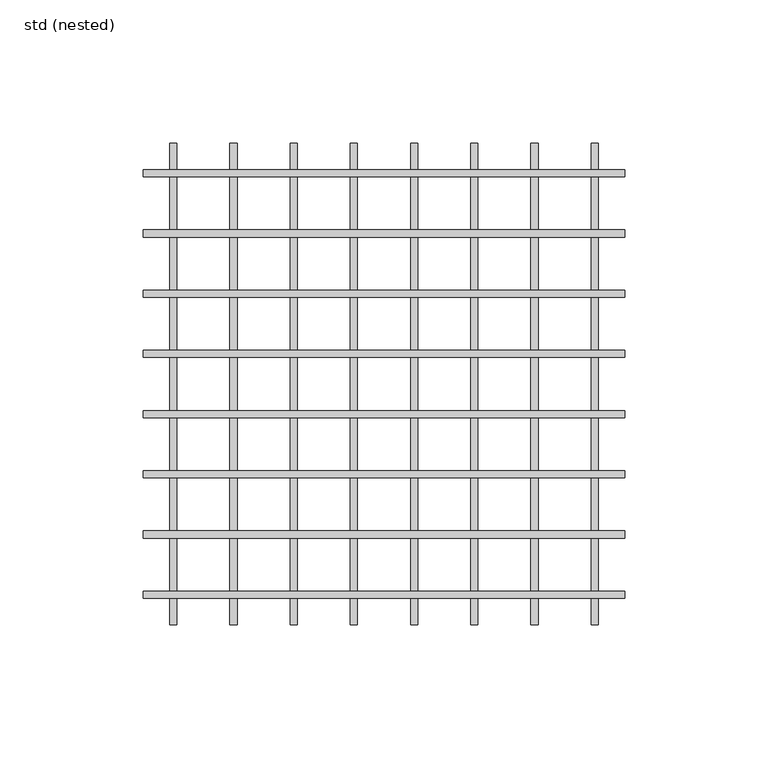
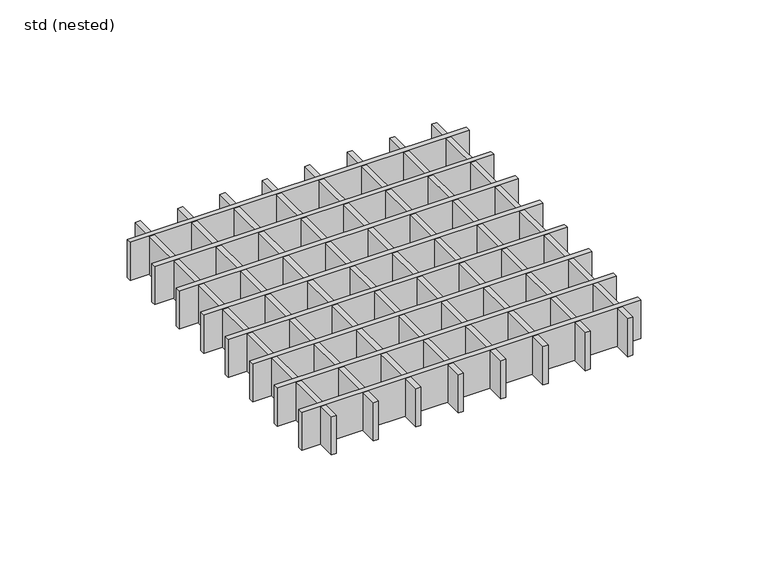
"""IFC4 building model written with IfcOpenShell, lengths in millimetres: sanitary terminal geometry, ZZZ_do not use_PF_ST_UN_square grating for hygienic gully_ACO : std (nested)."""

from ifc_helpers import new_model, si_unit, frame, origin, place, context, project, spatial, polyline, outline, extrude, source, transform, mapped, element, save


def std_nested_b282f1d5(model_context):
    return source(origin(), model_context, "Body", "SweptSolid", [
        extrude(outline(polyline([(-84.0, -74.75), (-84.0, -72.25), (84.0, -72.25), (84.0, -74.75), (-84.0, -74.75)])), frame((0.0, 0.0, -20.0), z_axis=(0.0, 0.0, 1.0), x_axis=(1.0, 0.0, 0.0)), (0.0, 0.0, 1.0), 20.0),
        extrude(outline(polyline([(-84.0, -53.75), (-84.0, -51.25), (84.0, -51.25), (84.0, -53.75), (-84.0, -53.75)])), frame((0.0, 0.0, -20.0), z_axis=(0.0, 0.0, 1.0), x_axis=(1.0, 0.0, 0.0)), (0.0, 0.0, 1.0), 20.0),
        extrude(outline(polyline([(-84.0, -32.75), (-84.0, -30.25), (84.0, -30.25), (84.0, -32.75), (-84.0, -32.75)])), frame((0.0, 0.0, -20.0), z_axis=(0.0, 0.0, 1.0), x_axis=(1.0, 0.0, 0.0)), (0.0, 0.0, 1.0), 20.0),
        extrude(outline(polyline([(-84.0, 72.25), (-84.0, 74.75), (84.0, 74.75), (84.0, 72.25), (-84.0, 72.25)])), frame((0.0, 0.0, -20.0), z_axis=(0.0, 0.0, 1.0), x_axis=(1.0, 0.0, 0.0)), (0.0, 0.0, 1.0), 20.0),
        extrude(outline(polyline([(-84.0, 51.25), (-84.0, 53.75), (84.0, 53.75), (84.0, 51.25), (-84.0, 51.25)])), frame((0.0, 0.0, -20.0), z_axis=(0.0, 0.0, 1.0), x_axis=(1.0, 0.0, 0.0)), (0.0, 0.0, 1.0), 20.0),
        extrude(outline(polyline([(-84.0, 30.25), (-84.0, 32.75), (84.0, 32.75), (84.0, 30.25), (-84.0, 30.25)])), frame((0.0, 0.0, -20.0), z_axis=(0.0, 0.0, 1.0), x_axis=(1.0, 0.0, 0.0)), (0.0, 0.0, 1.0), 20.0),
        extrude(outline(polyline([(-84.0, 9.25), (-84.0, 11.75), (84.0, 11.75), (84.0, 9.25), (-84.0, 9.25)])), frame((0.0, 0.0, -20.0), z_axis=(0.0, 0.0, 1.0), x_axis=(1.0, 0.0, 0.0)), (0.0, 0.0, 1.0), 20.0),
        extrude(outline(polyline([(-84.0, -11.75), (-84.0, -9.25), (84.0, -9.25), (84.0, -11.75), (-84.0, -11.75)])), frame((0.0, 0.0, -20.0), z_axis=(0.0, 0.0, 1.0), x_axis=(1.0, 0.0, 0.0)), (0.0, 0.0, 1.0), 20.0),
        extrude(outline(polyline([(-72.25, -84.0), (-74.75, -84.0), (-74.75, 84.0), (-72.25, 84.0), (-72.25, -84.0)])), frame((0.0, 0.0, -20.0), z_axis=(0.0, 0.0, 1.0), x_axis=(1.0, 0.0, 0.0)), (0.0, 0.0, 1.0), 20.0),
        extrude(outline(polyline([(-51.25, -84.0), (-53.75, -84.0), (-53.75, 84.0), (-51.25, 84.0), (-51.25, -84.0)])), frame((0.0, 0.0, -20.0), z_axis=(0.0, 0.0, 1.0), x_axis=(1.0, 0.0, 0.0)), (0.0, 0.0, 1.0), 20.0),
        extrude(outline(polyline([(-30.25, -84.0), (-32.75, -84.0), (-32.75, 84.0), (-30.25, 84.0), (-30.25, -84.0)])), frame((0.0, 0.0, -20.0), z_axis=(0.0, 0.0, 1.0), x_axis=(1.0, 0.0, 0.0)), (0.0, 0.0, 1.0), 20.0),
        extrude(outline(polyline([(74.75, -84.0), (72.25, -84.0), (72.25, 84.0), (74.75, 84.0), (74.75, -84.0)])), frame((0.0, 0.0, -20.0), z_axis=(0.0, 0.0, 1.0), x_axis=(1.0, 0.0, 0.0)), (0.0, 0.0, 1.0), 20.0),
        extrude(outline(polyline([(53.75, -84.0), (51.25, -84.0), (51.25, 84.0), (53.75, 84.0), (53.75, -84.0)])), frame((0.0, 0.0, -20.0), z_axis=(0.0, 0.0, 1.0), x_axis=(1.0, 0.0, 0.0)), (0.0, 0.0, 1.0), 20.0),
        extrude(outline(polyline([(32.75, -84.0), (30.25, -84.0), (30.25, 84.0), (32.75, 84.0), (32.75, -84.0)])), frame((0.0, 0.0, -20.0), z_axis=(0.0, 0.0, 1.0), x_axis=(1.0, 0.0, 0.0)), (0.0, 0.0, 1.0), 20.0),
        extrude(outline(polyline([(-9.25, -84.0), (-11.75, -84.0), (-11.75, 84.0), (-9.25, 84.0), (-9.25, -84.0)])), frame((0.0, 0.0, -20.0), z_axis=(0.0, 0.0, 1.0), x_axis=(1.0, 0.0, 0.0)), (0.0, 0.0, 1.0), 20.0),
        extrude(outline(polyline([(11.75, -84.0), (9.25, -84.0), (9.25, 84.0), (11.75, 84.0), (11.75, -84.0)])), frame((0.0, 0.0, -20.0), z_axis=(0.0, 0.0, 1.0), x_axis=(1.0, 0.0, 0.0)), (0.0, 0.0, 1.0), 20.0),
    ])


if __name__ == "__main__":
    model = new_model("IFC4")
    model_context = context("Model", 3, world=origin())
    ifc_project = project(units=[si_unit("LENGTHUNIT", "METRE", prefix="MILLI")], contexts=[model_context])
    site = spatial("IfcSite", under=ifc_project)
    building = spatial("IfcBuilding", under=site)
    placement = place(None, origin())
    std_nested_shape = std_nested_b282f1d5(model_context)
    element("IfcSanitaryTerminal", 1, ObjectType="ZZZ_do not use_PF_ST_UN_square grating for hygienic gully_ACO : std (nested)", at=placement, inside=building, context=model_context, shape_type="MappedRepresentation", body=[
        mapped(std_nested_shape, transform((0.0, 0.0, 0.0), x_axis=(1.0, 0.0, 0.0), y_axis=(0.0, 1.0, 0.0), z_axis=(0.0, 0.0, 1.0))),
    ])
    save(model, "model.ifc")
